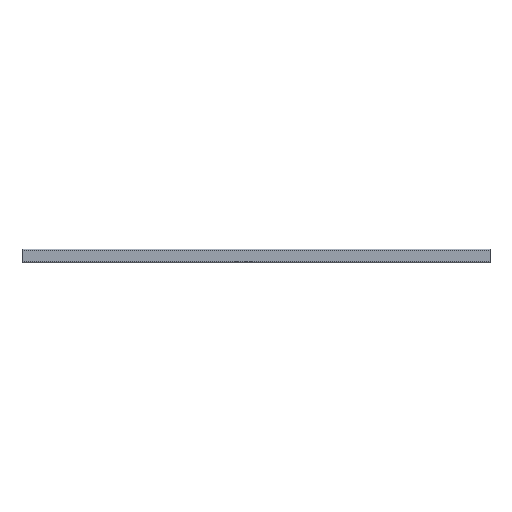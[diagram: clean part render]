
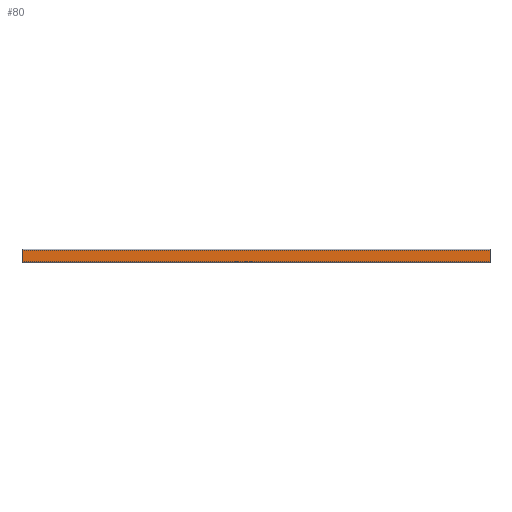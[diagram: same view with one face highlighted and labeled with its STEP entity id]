
A CAD part, top view. The second image highlights one B-rep face of the part: STEP entity #80.
In plain terms, the highlighted planar face has unit normal (0, 0, 1).
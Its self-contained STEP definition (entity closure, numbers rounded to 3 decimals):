
#80 = ADVANCED_FACE( '', ( #170 ), #171, .F. );
#170 = FACE_OUTER_BOUND( '', #267, .T. );
#171 = PLANE( '', #268 );
#267 = EDGE_LOOP( '', ( #423, #424, #425, #426 ) );
#268 = AXIS2_PLACEMENT_3D( '', #427, #428, #429 );
#423 = ORIENTED_EDGE( '', *, *, #667, .T. );
#424 = ORIENTED_EDGE( '', *, *, #668, .F. );
#425 = ORIENTED_EDGE( '', *, *, #669, .F. );
#426 = ORIENTED_EDGE( '', *, *, #670, .T. );
#427 = CARTESIAN_POINT( '', ( 874., 10.5, 25. ) );
#428 = DIRECTION( '', ( 0., 0., -1. ) );
#429 = DIRECTION( '', ( -1., 0., 0. ) );
#667 = EDGE_CURVE( '', #823, #824, #825, .T. );
#668 = EDGE_CURVE( '', #826, #824, #827, .T. );
#669 = EDGE_CURVE( '', #828, #826, #829, .T. );
#670 = EDGE_CURVE( '', #828, #823, #830, .T. );
#823 = VERTEX_POINT( '', #1026 );
#824 = VERTEX_POINT( '', #1027 );
#825 = LINE( '', #1028, #1029 );
#826 = VERTEX_POINT( '', #1030 );
#827 = LINE( '', #1031, #1032 );
#828 = VERTEX_POINT( '', #1033 );
#829 = LINE( '', #1034, #1035 );
#830 = LINE( '', #1036, #1037 );
#1026 = CARTESIAN_POINT( '', ( 0., 10.5, 25. ) );
#1027 = CARTESIAN_POINT( '', ( 0., -10.5, 25. ) );
#1028 = CARTESIAN_POINT( '', ( 0., 10.5, 25. ) );
#1029 = VECTOR( '', #1195, 1000. );
#1030 = CARTESIAN_POINT( '', ( 874., -10.5, 25. ) );
#1031 = CARTESIAN_POINT( '', ( 874., -10.5, 25. ) );
#1032 = VECTOR( '', #1196, 1000. );
#1033 = CARTESIAN_POINT( '', ( 874., 10.5, 25. ) );
#1034 = CARTESIAN_POINT( '', ( 874., 10.5, 25. ) );
#1035 = VECTOR( '', #1197, 1000. );
#1036 = CARTESIAN_POINT( '', ( 874., 10.5, 25. ) );
#1037 = VECTOR( '', #1198, 1000. );
#1195 = DIRECTION( '', ( 0., -1., 0. ) );
#1196 = DIRECTION( '', ( -1., 0., 0. ) );
#1197 = DIRECTION( '', ( 0., -1., 0. ) );
#1198 = DIRECTION( '', ( -1., 0., 0. ) );
